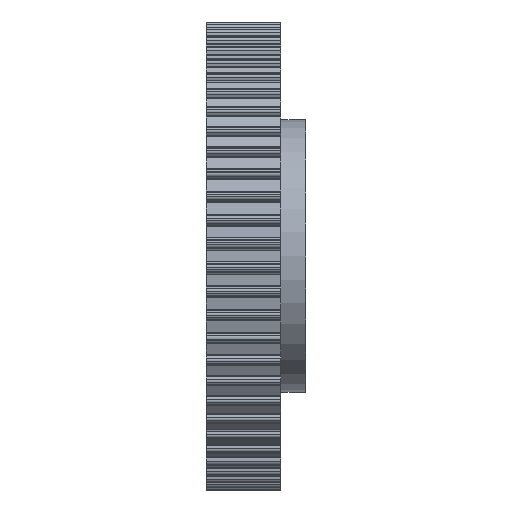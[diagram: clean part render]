
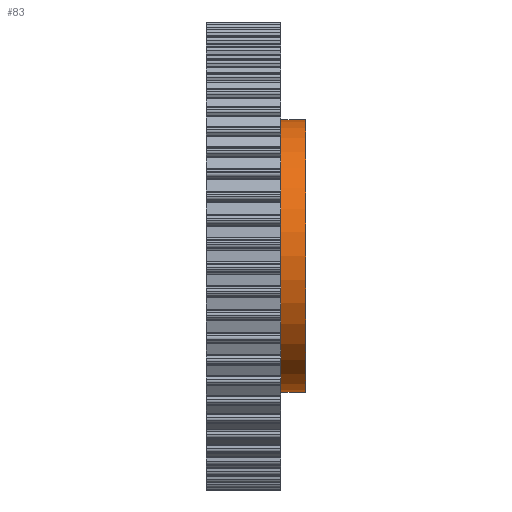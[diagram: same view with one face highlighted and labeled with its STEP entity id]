
A CAD part, front view. The second image highlights one B-rep face of the part: STEP entity #83.
In plain terms, the highlighted cylindrical face has radius 55 mm (diameter 110 mm), a full revolution.
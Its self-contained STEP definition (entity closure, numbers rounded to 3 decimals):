
#83 = ADVANCED_FACE( '', ( #581, #582 ), #583, .T. );
#581 = FACE_OUTER_BOUND( '', #1556, .T. );
#582 = FACE_OUTER_BOUND( '', #1557, .T. );
#583 = CYLINDRICAL_SURFACE( '', #1558, 55. );
#1556 = EDGE_LOOP( '', ( #3517 ) );
#1557 = EDGE_LOOP( '', ( #3518 ) );
#1558 = AXIS2_PLACEMENT_3D( '', #3519, #3520, #3521 );
#3517 = ORIENTED_EDGE( '', *, *, #7820, .T. );
#3518 = ORIENTED_EDGE( '', *, *, #7822, .F. );
#3519 = CARTESIAN_POINT( '', ( 40., 0., 0. ) );
#3520 = DIRECTION( '', ( -1., 0., 0. ) );
#3521 = DIRECTION( '', ( 0., 0., -1. ) );
#7820 = EDGE_CURVE( '', #10225, #10225, #10226, .T. );
#7822 = EDGE_CURVE( '', #10229, #10229, #10230, .T. );
#10225 = VERTEX_POINT( '', #12998 );
#10226 = CIRCLE( '', #12999, 55. );
#10229 = VERTEX_POINT( '', #13002 );
#10230 = CIRCLE( '', #13003, 55. );
#12998 = CARTESIAN_POINT( '', ( 30., 0., -55. ) );
#12999 = AXIS2_PLACEMENT_3D( '', #16122, #16123, #16124 );
#13002 = CARTESIAN_POINT( '', ( 40., 0., -55. ) );
#13003 = AXIS2_PLACEMENT_3D( '', #16128, #16129, #16130 );
#16122 = CARTESIAN_POINT( '', ( 30., 0., 0. ) );
#16123 = DIRECTION( '', ( 1., 0., 0. ) );
#16124 = DIRECTION( '', ( 0., 0., -1. ) );
#16128 = CARTESIAN_POINT( '', ( 40., 0., 0. ) );
#16129 = DIRECTION( '', ( 1., 0., 0. ) );
#16130 = DIRECTION( '', ( 0., 0., -1. ) );
